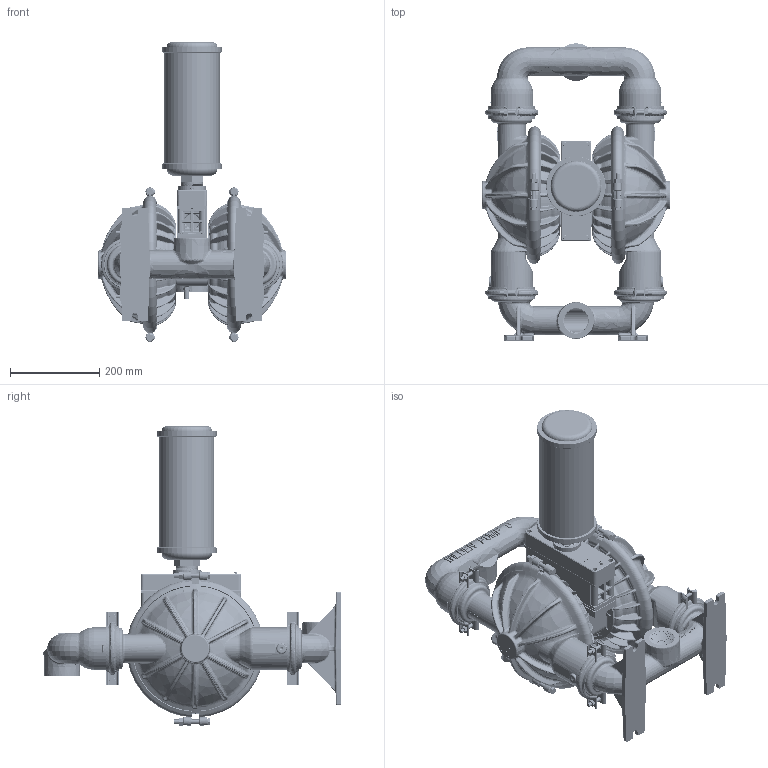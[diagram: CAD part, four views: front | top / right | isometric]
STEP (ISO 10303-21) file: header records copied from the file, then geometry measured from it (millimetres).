
FILE_DESCRIPTION((''),'2;1');
FILE_NAME('PS08_AL_TOP_SW0001','2013-06-10T',('Bill.Watson'),(''),'PRO/ENGINEER BY PARAMETRIC TECHNOLOGY CORPORATION, 2011180','PRO/ENGINEER BY PARAMETRIC TECHNOLOGY CORPORATION, 2011180','');
FILE_SCHEMA(('CONFIG_CONTROL_DESIGN'));
Length unit declared in the file: inch
Products named in the file (1): PS08_AL_TOP_SW0001
Bounding box: 420.67 x 665.32 x 670.14 mm (x, y, z)
Volume: 12237295.3 mm3; surface area: 2451205.8 mm2
Topology: 14 solids, 21 shells, 21286 faces, 56839 edges, 36511 vertices
Faces by surface type: plane 14250, bspline 2911, cylinder 1621, torus 1233, cone 843, sphere 381, extrusion 47
Entity records: 1203181 total; most frequent: CARTESIAN_POINT 696233, ORIENTED_EDGE 113594, DIRECTION 92543, EDGE_CURVE 56797, VECTOR 38821, LINE 38774, VERTEX_POINT 36511, AXIS2_PLACEMENT_3D 26861
